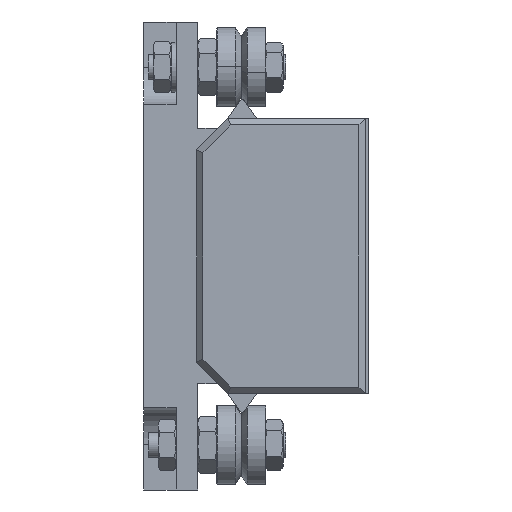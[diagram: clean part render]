
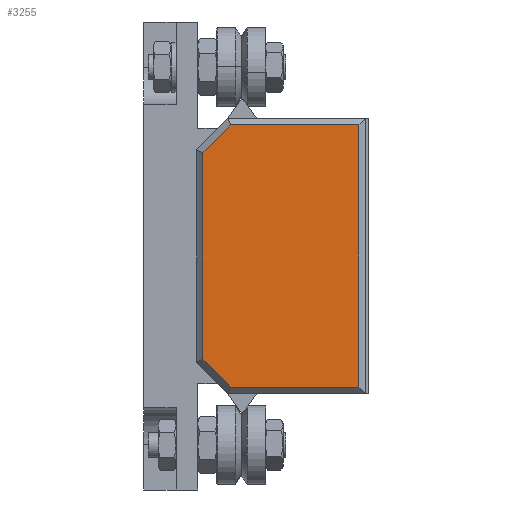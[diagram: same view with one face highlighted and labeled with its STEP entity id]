
A CAD part, left-side view. The second image highlights one B-rep face of the part: STEP entity #3255.
In plain terms, the highlighted planar face has unit normal (-1, 0, 0) as drawn and (0, 0, 1) by its records, which use the part's own axes.
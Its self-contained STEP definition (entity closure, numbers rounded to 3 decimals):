
#145 = VECTOR ( 'NONE', #11926, 1000. ) ;
#727 = VERTEX_POINT ( 'NONE', #11015 ) ;
#734 = ORIENTED_EDGE ( 'NONE', *, *, #5935, .T. ) ;
#1091 = LINE ( 'NONE', #5179, #8988 ) ;
#1825 = DIRECTION ( 'NONE',  ( -0.707, 0.707, 0. ) ) ;
#2293 = EDGE_LOOP ( 'NONE', ( #12444, #11748, #11200, #734, #3690, #7006 ) ) ;
#2351 = DIRECTION ( 'NONE',  ( 0., 0., -1. ) ) ;
#2395 = CARTESIAN_POINT ( 'NONE',  ( -21., 0., 6. ) ) ;
#2531 = CARTESIAN_POINT ( 'NONE',  ( -21., 1., 6. ) ) ;
#2641 = LINE ( 'NONE', #5795, #8525 ) ;
#2739 = AXIS2_PLACEMENT_3D ( 'NONE', #8306, #2351, #4504 ) ;
#2806 = CARTESIAN_POINT ( 'NONE',  ( 16.586, 26., 6. ) ) ;
#2827 = CARTESIAN_POINT ( 'NONE',  ( 0., 1., 6. ) ) ;
#2918 = EDGE_CURVE ( 'NONE', #11185, #727, #7850, .T. ) ;
#3255 = ADVANCED_FACE ( 'NONE', ( #9296 ), #3493, .F. ) ;
#3493 = PLANE ( 'NONE',  #2739 ) ;
#3674 = VECTOR ( 'NONE', #7816, 1000. ) ;
#3690 = ORIENTED_EDGE ( 'NONE', *, *, #10792, .T. ) ;
#4021 = VECTOR ( 'NONE', #8551, 1000. ) ;
#4504 = DIRECTION ( 'NONE',  ( -1., 0., 0. ) ) ;
#5179 = CARTESIAN_POINT ( 'NONE',  ( 0., 26., 6. ) ) ;
#5206 = LINE ( 'NONE', #9404, #6495 ) ;
#5412 = LINE ( 'NONE', #2395, #4021 ) ;
#5795 = CARTESIAN_POINT ( 'NONE',  ( 16.293, 26.293, 6. ) ) ;
#5935 = EDGE_CURVE ( 'NONE', #12156, #9689, #2641, .T. ) ;
#6058 = CARTESIAN_POINT ( 'NONE',  ( -16.586, 26., 6. ) ) ;
#6158 = VERTEX_POINT ( 'NONE', #6058 ) ;
#6495 = VECTOR ( 'NONE', #8419, 1000. ) ;
#7006 = ORIENTED_EDGE ( 'NONE', *, *, #11253, .T. ) ;
#7816 = DIRECTION ( 'NONE',  ( -0.707, -0.707, 0. ) ) ;
#7850 = LINE ( 'NONE', #2827, #145 ) ;
#8306 = CARTESIAN_POINT ( 'NONE',  ( 0., 0., 6. ) ) ;
#8419 = DIRECTION ( 'NONE',  ( 0., 1., 0. ) ) ;
#8525 = VECTOR ( 'NONE', #1825, 1000. ) ;
#8551 = DIRECTION ( 'NONE',  ( 0., -1., 0. ) ) ;
#8626 = EDGE_CURVE ( 'NONE', #727, #12156, #5206, .T. ) ;
#8755 = CARTESIAN_POINT ( 'NONE',  ( -21.293, 21.293, 6. ) ) ;
#8988 = VECTOR ( 'NONE', #9246, 1000. ) ;
#9246 = DIRECTION ( 'NONE',  ( -1., 0., 0. ) ) ;
#9296 = FACE_OUTER_BOUND ( 'NONE', #2293, .T. ) ;
#9404 = CARTESIAN_POINT ( 'NONE',  ( 21., 0., 6. ) ) ;
#9504 = CARTESIAN_POINT ( 'NONE',  ( 21., 21.586, 6. ) ) ;
#9689 = VERTEX_POINT ( 'NONE', #2806 ) ;
#10756 = LINE ( 'NONE', #8755, #3674 ) ;
#10792 = EDGE_CURVE ( 'NONE', #9689, #6158, #1091, .T. ) ;
#10899 = CARTESIAN_POINT ( 'NONE',  ( -21., 21.586, 6. ) ) ;
#11015 = CARTESIAN_POINT ( 'NONE',  ( 21., 1., 6. ) ) ;
#11185 = VERTEX_POINT ( 'NONE', #2531 ) ;
#11200 = ORIENTED_EDGE ( 'NONE', *, *, #8626, .T. ) ;
#11253 = EDGE_CURVE ( 'NONE', #6158, #12827, #10756, .T. ) ;
#11748 = ORIENTED_EDGE ( 'NONE', *, *, #2918, .T. ) ;
#11926 = DIRECTION ( 'NONE',  ( 1., 0., 0. ) ) ;
#12156 = VERTEX_POINT ( 'NONE', #9504 ) ;
#12444 = ORIENTED_EDGE ( 'NONE', *, *, #13072, .T. ) ;
#12827 = VERTEX_POINT ( 'NONE', #10899 ) ;
#13072 = EDGE_CURVE ( 'NONE', #12827, #11185, #5412, .T. ) ;
